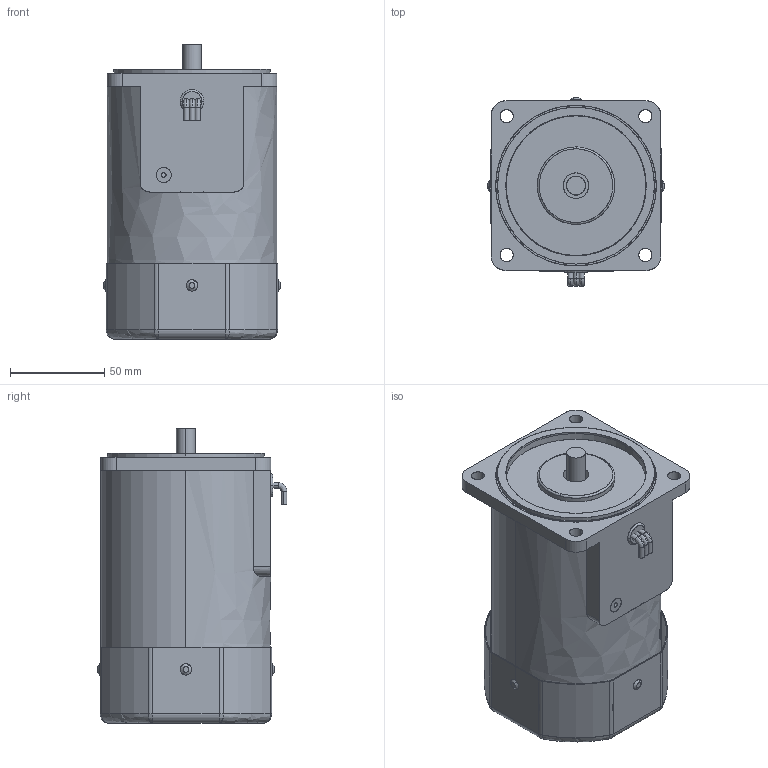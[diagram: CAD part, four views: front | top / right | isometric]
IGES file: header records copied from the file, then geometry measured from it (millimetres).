
Start section: SolidWorks IGES file using analytic representation for surfaces
Bounding box: 94 x 100.5 x 156 mm (x, y, z)
Surface area: 135910.4 mm2 (no closed solid volume)
Topology: 0 solids, 0 shells, 210 faces, 3788 edges, 3772 vertices
Faces by surface type: revolution 108, bspline 102
